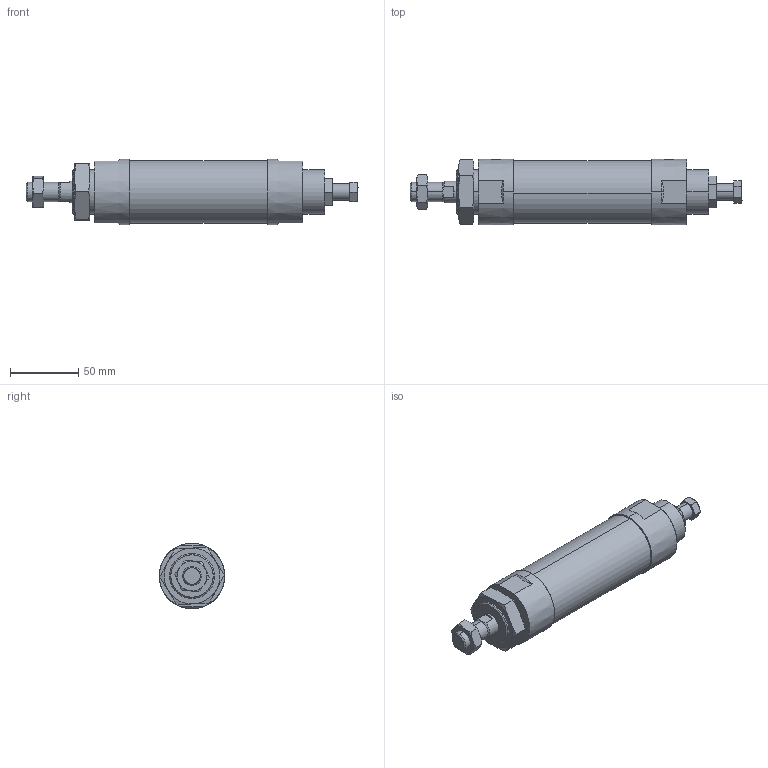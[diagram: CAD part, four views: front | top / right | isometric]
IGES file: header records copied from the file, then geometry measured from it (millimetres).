
Start section: SolidWorks IGES file using analytic representation for surfaces
Global section: file name: C:\Users\Toshiba\Desktop\JGA2-40-50-N.IGS; native system: SolidWorks 2014; preprocessor: SolidWorks 2014; author: Toshiba; date: 160420.130952; units: millimetre
Bounding box: 243.5 x 48 x 48 mm (x, y, z)
Surface area: 45649.6 mm2 (no closed solid volume)
Topology: 0 solids, 0 shells, 124 faces, 2388 edges, 2384 vertices
Faces by surface type: bspline 84, revolution 40
